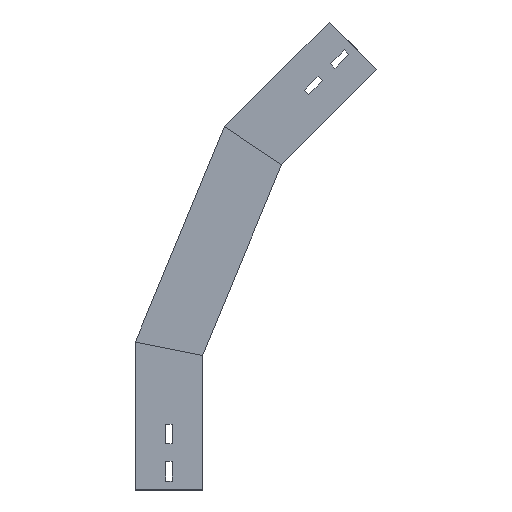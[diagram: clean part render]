
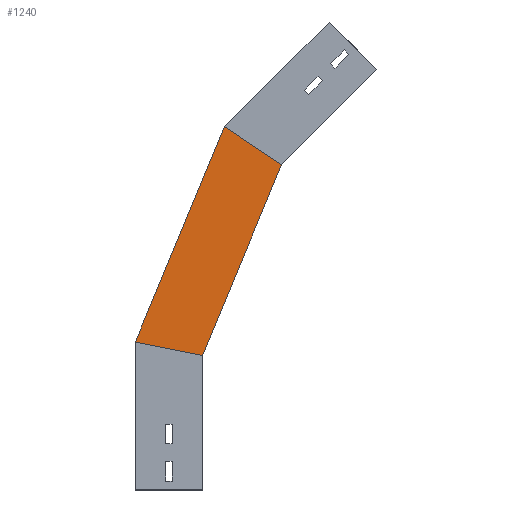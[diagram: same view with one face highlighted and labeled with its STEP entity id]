
A CAD part, left-side view. The second image highlights one B-rep face of the part: STEP entity #1240.
In plain terms, the highlighted planar face has unit normal (-1, 0, 0) as drawn and (1, 0, 0) by its records, which use the part's own axes.
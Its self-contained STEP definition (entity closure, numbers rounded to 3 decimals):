
#15 = DIRECTION ( 'NONE',  ( 0., -0.383, 0.924 ) ) ;
#41 = LINE ( 'NONE', #148, #633 ) ;
#51 = CARTESIAN_POINT ( 'NONE',  ( 0., 75., 164.918 ) ) ;
#95 = DIRECTION ( 'NONE',  ( 0., -0.981, -0.195 ) ) ;
#148 = CARTESIAN_POINT ( 'NONE',  ( 0., -128.004, 335.774 ) ) ;
#242 = CARTESIAN_POINT ( 'NONE',  ( 0., 75.609, 163.448 ) ) ;
#253 = DIRECTION ( 'NONE',  ( 0., 0., -1. ) ) ;
#255 = VECTOR ( 'NONE', #15, 1000. ) ;
#286 = EDGE_CURVE ( 'NONE', #300, #1111, #534, .T. ) ;
#297 = VECTOR ( 'NONE', #989, 1000. ) ;
#300 = VERTEX_POINT ( 'NONE', #324 ) ;
#324 = CARTESIAN_POINT ( 'NONE',  ( 0., 0., 150. ) ) ;
#368 = EDGE_CURVE ( 'NONE', #487, #300, #559, .T. ) ;
#381 = DIRECTION ( 'NONE',  ( 1., 0., 0. ) ) ;
#392 = ORIENTED_EDGE ( 'NONE', *, *, #868, .T. ) ;
#487 = VERTEX_POINT ( 'NONE', #51 ) ;
#500 = DIRECTION ( 'NONE',  ( 0., -0.831, -0.556 ) ) ;
#534 = LINE ( 'NONE', #1214, #297 ) ;
#541 = CARTESIAN_POINT ( 'NONE',  ( 0., -24.435, 404.976 ) ) ;
#559 = LINE ( 'NONE', #1376, #1251 ) ;
#633 = VECTOR ( 'NONE', #500, 1000. ) ;
#682 = ORIENTED_EDGE ( 'NONE', *, *, #286, .F. ) ;
#720 = EDGE_CURVE ( 'NONE', #487, #904, #1168, .T. ) ;
#823 = FACE_OUTER_BOUND ( 'NONE', #1117, .T. ) ;
#833 = PLANE ( 'NONE',  #1372 ) ;
#868 = EDGE_CURVE ( 'NONE', #904, #1111, #41, .T. ) ;
#904 = VERTEX_POINT ( 'NONE', #541 ) ;
#986 = ORIENTED_EDGE ( 'NONE', *, *, #368, .F. ) ;
#989 = DIRECTION ( 'NONE',  ( 0., -0.383, 0.924 ) ) ;
#1111 = VERTEX_POINT ( 'NONE', #1373 ) ;
#1117 = EDGE_LOOP ( 'NONE', ( #1378, #392, #682, #986 ) ) ;
#1168 = LINE ( 'NONE', #242, #255 ) ;
#1177 = CARTESIAN_POINT ( 'NONE',  ( 0., 6.318, 134.746 ) ) ;
#1214 = CARTESIAN_POINT ( 'NONE',  ( 0., 6.318, 134.746 ) ) ;
#1240 = ADVANCED_FACE ( 'NONE', ( #823 ), #833, .T. ) ;
#1251 = VECTOR ( 'NONE', #95, 1000. ) ;
#1372 = AXIS2_PLACEMENT_3D ( 'NONE', #1177, #381, #253 ) ;
#1373 = CARTESIAN_POINT ( 'NONE',  ( 0., -88.017, 362.492 ) ) ;
#1376 = CARTESIAN_POINT ( 'NONE',  ( 0., -28.701, 144.291 ) ) ;
#1378 = ORIENTED_EDGE ( 'NONE', *, *, #720, .T. ) ;
